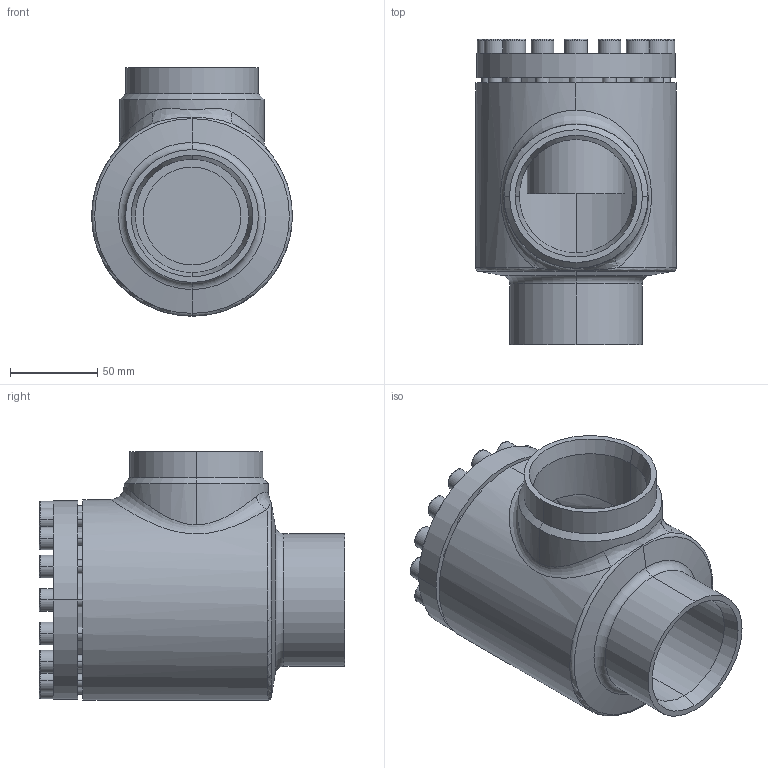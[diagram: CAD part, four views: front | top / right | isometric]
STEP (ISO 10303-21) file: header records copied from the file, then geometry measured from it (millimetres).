
FILE_DESCRIPTION (( 'STEP AP214' ), '1' );
FILE_NAME ('RV28400D17-DN065_R1_PS40.STEP', '2006-04-28T05:26:51', ( 'Herr Grams' ), ( 'AWP GmbH' ), 'SwSTEP 2.0', 'SolidWorks 2002296', '' );
FILE_SCHEMA (( 'AUTOMOTIVE_DESIGN' ));
Length unit declared in the file: millimetre
Products named in the file (5): RV28400D17-DN065_R1_PS40; Gehäuse16400-DN065_Standard; RV28300K17_Deck+Schr-DN065_Standard; Deckel28300K17-DN65_Standard; Zylinderschraube-DIN912_M 8x 25
Assembly tree (19 placements, depth 3):
  RV28400D17-DN065_R1_PS40
    RV28300K17_Deck+Schr-DN065_Standard
      Zylinderschraube-DIN912_M 8x 25  x16
      Deckel28300K17-DN65_Standard
    Gehäuse16400-DN065_Standard
Bounding box: 115 x 175 x 142.5 mm (x, y, z)
Volume: 794880.3 mm3; surface area: 178539.1 mm2
Topology: 18 solids, 18 shells, 376 faces, 826 edges, 523 vertices
Faces by surface type: plane 172, cylinder 124, cone 42, torus 36, bspline 2
Entity records: 13962 total; most frequent: CARTESIAN_POINT 10865, DIRECTION 642, ORIENTED_EDGE 512, AXIS2_PLACEMENT_3D 273, EDGE_CURVE 256, VERTEX_POINT 163, EDGE_LOOP 149, CIRCLE 146
